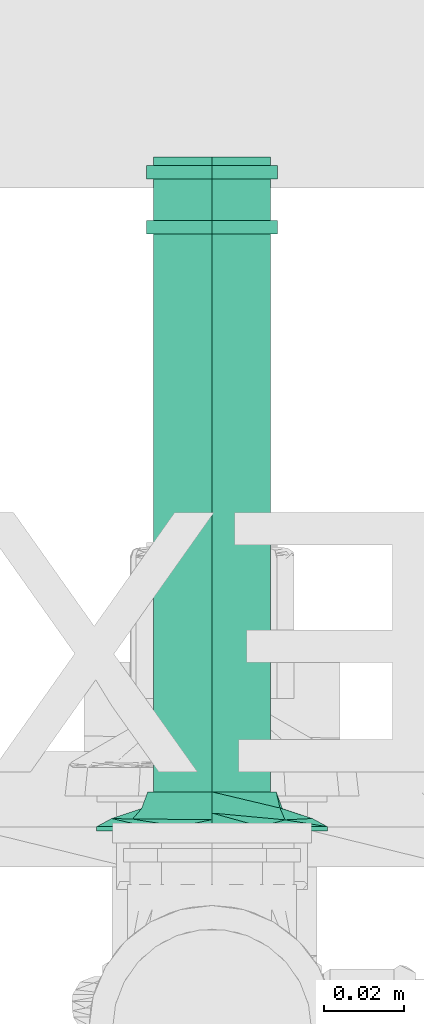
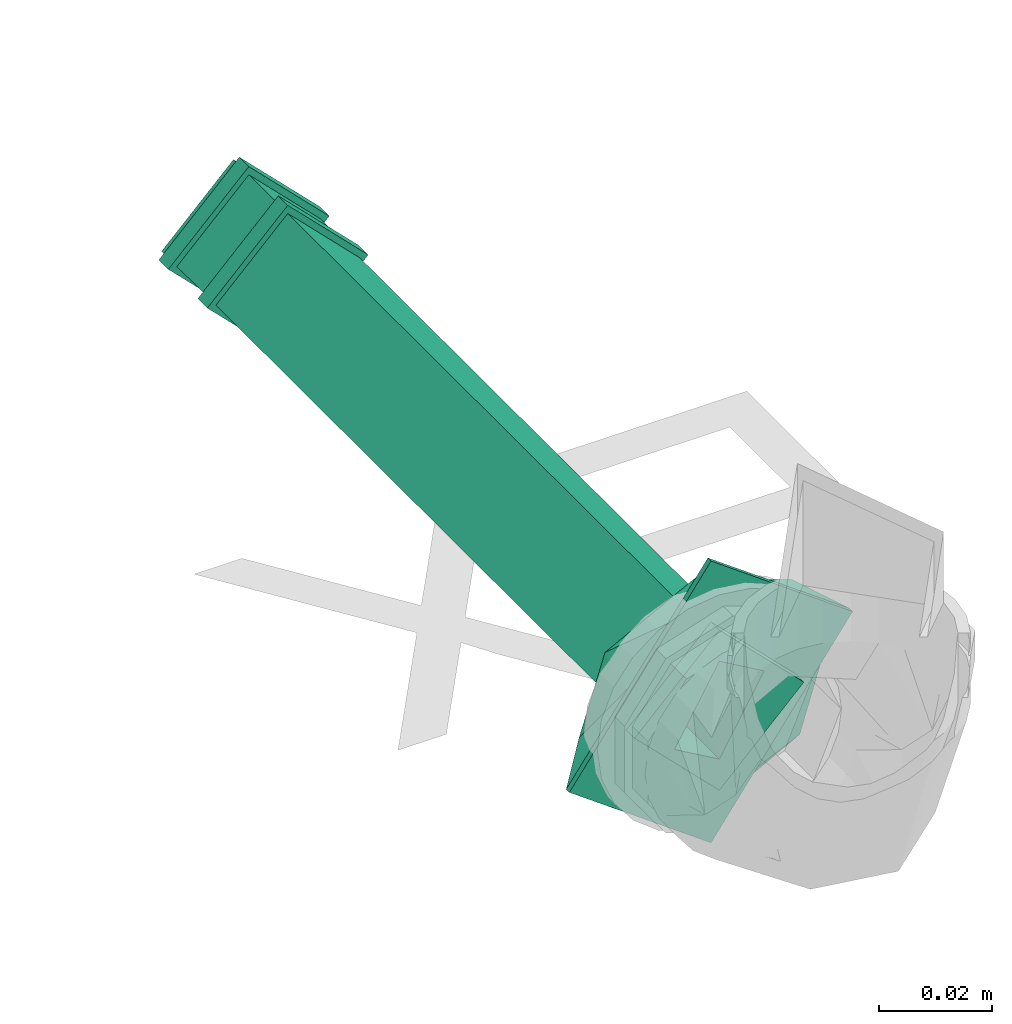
# One storey, part 245 of 589: 1 flow fitting.
"""IFC2X3 building model written with IfcOpenShell, lengths in millimetres."""

from ifc_helpers import new_model, entity, si_unit, converted_unit, derived_unit, direction, frame, origin, place, context, subcontext, project, spatial, faceted_brep, source, transform, mapped, material, type_object, type_shapes, element, save


model = new_model("IFC2X3")

# Units and contexts
model_context = context("Model", 3, precision=0.01, world=origin(), true_north=direction((6.123031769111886e-17, 1.0)))
body_context = subcontext(model_context, "Body", "Model", "MODEL_VIEW")
ifc_project = project(units=[si_unit("LENGTHUNIT", "METRE", prefix="MILLI"), si_unit("AREAUNIT", "SQUARE_METRE"), si_unit("VOLUMEUNIT", "CUBIC_METRE"), converted_unit("PLANEANGLEUNIT", "DEGREE", entity("IfcRatioMeasure", 0.017453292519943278), si_unit("PLANEANGLEUNIT", "RADIAN"), dimensions=[0, 0, 0, 0, 0, 0, 0]), si_unit("MASSUNIT", "GRAM", prefix="KILO"), derived_unit("MASSDENSITYUNIT", [(si_unit("MASSUNIT", "GRAM", prefix="KILO"), 1), (si_unit("LENGTHUNIT", "METRE"), -3)]), derived_unit("IONCONCENTRATIONUNIT", [(si_unit("MASSUNIT", "GRAM", prefix="KILO"), 1), (si_unit("LENGTHUNIT", "METRE"), -3)]), derived_unit("MOMENTOFINERTIAUNIT", [(si_unit("LENGTHUNIT", "METRE"), 4)]), si_unit("TIMEUNIT", "SECOND"), si_unit("FREQUENCYUNIT", "HERTZ"), si_unit("THERMODYNAMICTEMPERATUREUNIT", "DEGREE_CELSIUS"), derived_unit("THERMALTRANSMITTANCEUNIT", [(si_unit("MASSUNIT", "GRAM", prefix="KILO"), 1), (si_unit("THERMODYNAMICTEMPERATUREUNIT", "KELVIN"), -1), (si_unit("TIMEUNIT", "SECOND"), -3)]), derived_unit("THERMALCONDUCTANCEUNIT", [(si_unit("MASSUNIT", "GRAM", prefix="KILO"), 1), (si_unit("THERMODYNAMICTEMPERATUREUNIT", "KELVIN"), -1), (si_unit("TIMEUNIT", "SECOND"), -3), (si_unit("LENGTHUNIT", "METRE"), 1)]), derived_unit("VOLUMETRICFLOWRATEUNIT", [(si_unit("LENGTHUNIT", "METRE"), 3), (si_unit("TIMEUNIT", "SECOND"), -1)]), derived_unit("MASSFLOWRATEUNIT", [(si_unit("MASSUNIT", "GRAM", prefix="KILO"), 1), (si_unit("TIMEUNIT", "SECOND"), -1)]), derived_unit("ROTATIONALFREQUENCYUNIT", [(si_unit("TIMEUNIT", "SECOND"), -1)]), si_unit("ELECTRICCURRENTUNIT", "AMPERE"), si_unit("ELECTRICVOLTAGEUNIT", "VOLT"), si_unit("POWERUNIT", "WATT"), si_unit("FORCEUNIT", "NEWTON", prefix="KILO"), si_unit("ILLUMINANCEUNIT", "LUX"), si_unit("LUMINOUSFLUXUNIT", "LUMEN"), si_unit("LUMINOUSINTENSITYUNIT", "CANDELA"), derived_unit("USERDEFINED", [(si_unit("MASSUNIT", "GRAM", prefix="KILO"), -1), (si_unit("LENGTHUNIT", "METRE"), -2), (si_unit("TIMEUNIT", "SECOND"), 3), (si_unit("LUMINOUSFLUXUNIT", "LUMEN"), 1)]), derived_unit("USERDEFINED", [(si_unit("MASSUNIT", "GRAM", prefix="KILO"), 1), (si_unit("TIMEUNIT", "SECOND"), -3), (si_unit("LENGTHUNIT", "METRE"), 3), (si_unit("ELECTRICCURRENTUNIT", "AMPERE"), -2)]), derived_unit("SOUNDPOWERUNIT", [(si_unit("MASSUNIT", "GRAM", prefix="KILO"), 1), (si_unit("TIMEUNIT", "SECOND"), -3), (si_unit("LENGTHUNIT", "METRE"), 2)]), derived_unit("SOUNDPRESSUREUNIT", [(si_unit("MASSUNIT", "GRAM", prefix="KILO"), 1), (si_unit("LENGTHUNIT", "METRE"), -1), (si_unit("TIMEUNIT", "SECOND"), -2)]), derived_unit("LINEARVELOCITYUNIT", [(si_unit("LENGTHUNIT", "METRE"), 1), (si_unit("TIMEUNIT", "SECOND"), -1)]), si_unit("PRESSUREUNIT", "PASCAL"), derived_unit("USERDEFINED", [(si_unit("MASSUNIT", "GRAM", prefix="KILO"), 1), (si_unit("LENGTHUNIT", "METRE"), -2), (si_unit("TIMEUNIT", "SECOND"), -2)]), derived_unit("LINEARFORCEUNIT", [(si_unit("MASSUNIT", "GRAM", prefix="KILO"), 1), (si_unit("TIMEUNIT", "SECOND"), -2)]), derived_unit("PLANARFORCEUNIT", [(si_unit("MASSUNIT", "GRAM", prefix="KILO"), 1), (si_unit("LENGTHUNIT", "METRE"), -1), (si_unit("TIMEUNIT", "SECOND"), -2)]), derived_unit("SPECIFICHEATCAPACITYUNIT", [(si_unit("THERMODYNAMICTEMPERATUREUNIT", "KELVIN"), -1), (si_unit("LENGTHUNIT", "METRE"), 2), (si_unit("TIMEUNIT", "SECOND"), -2)]), derived_unit("HEATINGVALUEUNIT", [(si_unit("LENGTHUNIT", "METRE"), 2), (si_unit("TIMEUNIT", "SECOND"), -2)]), derived_unit("VAPORPERMEABILITYUNIT", [(si_unit("LENGTHUNIT", "METRE"), -1), (si_unit("TIMEUNIT", "SECOND"), 1)]), derived_unit("DYNAMICVISCOSITYUNIT", [(si_unit("MASSUNIT", "GRAM", prefix="KILO"), 1), (si_unit("TIMEUNIT", "SECOND"), -1), (si_unit("LENGTHUNIT", "METRE"), -1)]), derived_unit("THERMALEXPANSIONCOEFFICIENTUNIT", [(si_unit("THERMODYNAMICTEMPERATUREUNIT", "KELVIN"), -1)]), derived_unit("MODULUSOFELASTICITYUNIT", [(si_unit("MASSUNIT", "GRAM", prefix="KILO"), 1), (si_unit("LENGTHUNIT", "METRE"), -1), (si_unit("TIMEUNIT", "SECOND"), -2)]), derived_unit("ISOTHERMALMOISTURECAPACITYUNIT", [(si_unit("LENGTHUNIT", "METRE"), 3), (si_unit("MASSUNIT", "GRAM", prefix="KILO"), -1)]), derived_unit("MOISTUREDIFFUSIVITYUNIT", [(si_unit("TIMEUNIT", "SECOND"), -1), (si_unit("LENGTHUNIT", "METRE"), 2)])], contexts=[model_context])

# Site, building, storey
site_placement = place(None, origin())
site = spatial("IfcSite", under=ifc_project, at=site_placement, Name="Default", CompositionType="ELEMENT")
building_placement = place(site_placement, origin())
building = spatial("IfcBuilding", under=site, at=building_placement, CompositionType="ELEMENT")
storey_placement = place(building_placement, frame((0.0, 0.0, 100.0)))
storey = spatial("IfcBuildingStorey", under=building, at=storey_placement, Name="TÉRREO", CompositionType="ELEMENT", Elevation=100.0)

# Flow fitting
ifc_material = material(Name="Cromada")
pipe_fitting_type = type_object("IfcPipeFittingType", Name="Tubo de Ligação Inox com anel para vaso sanitário 25cm:Tubo de Ligação Inox com anel para vaso sanitário 25cm", PredefinedType="NOTDEFINED", material=ifc_material)
shared_shape = source(origin(), body_context, "Body", "Brep", [
    faceted_brep([(169.50429906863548, 32.118882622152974, 13.280359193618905), (169.50429906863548, 40.79117842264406, 21.95265499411), (169.50429906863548, 49.46347422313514, 30.624950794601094), (172.4480370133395, 49.46347422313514, 30.624950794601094), (172.4480370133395, 37.891441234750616, 19.052917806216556), (172.4480370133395, 32.118882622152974, 13.280359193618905), (169.50429906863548, 23.446586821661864, 21.95265499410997), (172.4480370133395, 23.446586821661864, 21.95265499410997), (172.4480370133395, 14.774291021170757, 30.624950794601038), (169.50429906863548, 14.774291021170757, 30.624950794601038), (169.50429906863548, 32.11888262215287, 47.96954239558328), (169.50429906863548, 23.44658682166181, 39.297246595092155), (172.4480370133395, 26.346323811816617, 42.196983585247), (172.4480370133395, 32.11888262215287, 47.96954239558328), (169.50429906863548, 40.791178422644, 39.29724659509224), (172.4480370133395, 40.791178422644, 39.29724659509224), (169.50429906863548, 1.5952722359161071, 30.62495079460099), (169.50429906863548, 5.781758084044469, 27.583290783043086), (169.50429906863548, 4.910115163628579, 35.18744066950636), (169.50429906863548, 11.584253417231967, 23.367531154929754), (169.50429906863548, 16.578744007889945, 19.738821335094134), (169.50429906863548, 21.57323459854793, 16.11011151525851), (169.50429906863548, 26.567725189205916, 12.481401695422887), (169.50429906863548, 31.56221577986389, 8.852691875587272), (169.50429906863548, 36.55670637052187, 5.223982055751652), (169.50429906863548, 41.55119696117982, 1.5952722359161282), (169.50429906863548, 44.18760896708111, 5.2239820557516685), (169.50429906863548, 46.82402097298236, 8.852691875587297), (169.50429906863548, 49.46043297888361, 12.481401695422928), (169.50429906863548, 52.09684498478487, 16.110111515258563), (169.50429906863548, 56.012807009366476, 21.499970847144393), (169.50429906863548, 59.32765000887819, 26.062460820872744), (169.50429906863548, 62.642493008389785, 30.624950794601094), (169.50429906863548, 58.45600728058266, 33.666610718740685), (169.50429906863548, 52.65351182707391, 37.882370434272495), (169.50429906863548, 47.65902123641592, 41.511080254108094), (169.50429906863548, 42.66453064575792, 45.139790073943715), (169.50429906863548, 37.67004005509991, 48.76849989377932), (169.50429906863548, 32.67554946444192, 52.39720971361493), (169.50429906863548, 27.681058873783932, 56.025919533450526), (169.50429906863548, 22.686568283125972, 59.654629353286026), (169.50429906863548, 20.0501562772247, 56.025919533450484), (169.50429906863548, 17.41374427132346, 52.39720971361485), (169.50429906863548, 14.777332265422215, 48.76849989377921), (169.50429906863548, 12.140920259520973, 45.139790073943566), (169.50429906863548, 8.224958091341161, 39.749930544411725), (19.27578185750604, 46.84025664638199, 30.624950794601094), (159.6299658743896, 46.84025664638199, 30.624950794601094), (159.6299658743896, 41.249188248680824, 25.03388239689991), (159.6299658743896, 32.118882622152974, 15.903576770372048), (19.27578185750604, 32.118882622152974, 15.903576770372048), (19.27578185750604, 39.479569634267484, 23.26426378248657), (2.0682862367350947, 46.8402566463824, 30.624950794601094), (2.0682862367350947, 39.47956963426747, 23.26426378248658), (2.0682862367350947, 32.11888262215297, 15.903576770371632), (0.0, 32.11888262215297, 15.903576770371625), (0.0, 39.47956963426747, 23.26426378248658), (0.0, 46.840256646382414, 30.624950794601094), (15.901727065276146, 46.84025664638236, 30.624950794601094), (15.901727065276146, 39.47956963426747, 23.26426378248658), (15.901727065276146, 32.11888262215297, 15.903576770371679), (5.4423410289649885, 32.11888262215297, 15.903576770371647), (5.4423410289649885, 39.47956963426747, 23.26426378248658), (5.4423410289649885, 46.840256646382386, 30.624950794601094), (19.27578185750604, 24.758195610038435, 23.264263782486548), (159.6299658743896, 24.758195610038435, 23.264263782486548), (159.6299658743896, 17.3975085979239, 30.624950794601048), (19.27578185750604, 17.3975085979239, 30.624950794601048), (2.0682862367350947, 22.728055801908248, 25.29440359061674), (2.0682862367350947, 17.39750859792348, 30.624950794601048), (0.0, 17.39750859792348, 30.624950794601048), (0.0, 24.75819561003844, 23.26426378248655), (15.901727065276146, 22.728055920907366, 25.294403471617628), (15.901727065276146, 17.397508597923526, 30.624950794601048), (5.4423410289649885, 17.3975085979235, 30.624950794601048), (5.4423410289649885, 24.75819561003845, 23.26426378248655), (19.275781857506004, 24.758195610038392, 37.985637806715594), (159.6299658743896, 22.98857663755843, 36.21601883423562), (159.6299658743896, 32.118882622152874, 45.34632481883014), (19.27578185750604, 32.118882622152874, 45.34632481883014), (2.0682862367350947, 24.758195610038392, 37.98563780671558), (2.0682862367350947, 32.118882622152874, 45.34632481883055), (0.0, 32.118882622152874, 45.34632481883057), (0.0, 24.7581956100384, 37.98563780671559), (15.901727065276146, 24.7581956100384, 37.98563780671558), (15.901727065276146, 32.118882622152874, 45.3463248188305), (5.4423410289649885, 32.118882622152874, 45.34632481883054), (5.4423410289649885, 24.758195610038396, 37.98563780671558), (19.27578185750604, 39.47956963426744, 37.98563780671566), (159.6299658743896, 39.47956963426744, 37.98563780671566), (2.0682862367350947, 41.50970944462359, 35.95549799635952), (0.0, 39.47956963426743, 37.98563780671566), (15.901727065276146, 41.509709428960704, 35.955498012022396), (5.4423410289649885, 39.47956963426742, 37.98563780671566), (0.0, 21.519458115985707, 30.624950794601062), (0.0, 37.41859487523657, 21.44557990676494), (0.0, 26.819170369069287, 39.80432168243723), (0.0, 42.718307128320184, 30.624950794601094), (172.4480370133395, 37.418594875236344, 21.44557990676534), (172.4480370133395, 42.71830712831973, 30.624950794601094), (172.4480370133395, 21.51945811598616, 30.624950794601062), (172.4480370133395, 26.819170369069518, 39.80432168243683), (5.4423410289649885, 15.622913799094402, 30.624950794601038), (5.4423410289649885, 26.90830271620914, 19.33956187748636), (5.4423410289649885, 32.118882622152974, 14.12898197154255), (5.4423410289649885, 23.870898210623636, 38.872935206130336), (5.4423410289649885, 32.11888262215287, 47.12091961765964), (5.4423410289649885, 40.366867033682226, 22.376966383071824), (5.4423410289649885, 48.614851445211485, 30.624950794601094), (5.4423410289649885, 37.3294625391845, 41.910339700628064), (2.0682862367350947, 32.118882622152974, 14.128981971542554), (2.0682862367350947, 40.366867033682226, 22.376966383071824), (2.0682862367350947, 48.614851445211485, 30.624950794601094), (19.27578185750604, 48.614851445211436, 30.624950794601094), (19.27578185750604, 40.3668670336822, 22.376966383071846), (19.27578185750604, 32.118882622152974, 14.128981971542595), (15.901727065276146, 32.11888262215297, 14.1289819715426), (15.901727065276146, 40.3668670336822, 22.376966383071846), (15.901727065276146, 48.614851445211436, 30.624950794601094), (2.0682862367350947, 15.622913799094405, 30.624950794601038), (2.0682862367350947, 23.87089821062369, 22.376966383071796), (19.27578185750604, 26.908302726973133, 19.339561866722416), (19.27578185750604, 15.622913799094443, 30.62495079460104), (15.901727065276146, 15.622913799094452, 30.624950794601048), (15.901727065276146, 23.87089821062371, 22.37696638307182), (2.0682862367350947, 32.11888262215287, 47.12091961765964), (2.0682862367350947, 23.87089821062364, 38.872935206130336), (19.275781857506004, 23.870898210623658, 38.87293520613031), (19.27578185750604, 32.11888262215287, 47.12091961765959), (15.901727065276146, 32.11888262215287, 47.12091961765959), (15.901727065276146, 23.870898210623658, 38.87293520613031), (2.0682862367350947, 40.36686703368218, 38.872935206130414), (19.27578185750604, 37.329462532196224, 41.91033970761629), (15.901727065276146, 40.366867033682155, 38.87293520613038), (168.38578825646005, 41.55119696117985, 1.595272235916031), (168.38578825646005, 44.18760896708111, 5.22398205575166), (168.38578825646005, 46.82402097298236, 8.852691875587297), (168.38578825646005, 49.46043297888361, 12.481401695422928), (168.38578825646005, 52.09684498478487, 16.110111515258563), (168.38578825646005, 53.711986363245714, 18.333162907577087), (168.38578825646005, 54.73325699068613, 19.738821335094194), (168.38578825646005, 57.36966899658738, 23.367531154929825), (168.38578825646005, 59.32765000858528, 26.062460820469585), (168.38578825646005, 62.64249300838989, 30.624950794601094), (168.38578825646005, 1.5952722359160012, 30.62495079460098), (168.38578825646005, 5.781758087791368, 27.583290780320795), (168.38578825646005, 9.968243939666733, 24.5416307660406), (168.38578825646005, 12.874069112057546, 22.430425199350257), (168.38578825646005, 14.15472979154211, 21.499970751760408), (168.38578825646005, 18.34121564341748, 18.458310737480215), (168.38578825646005, 24.143710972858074, 14.24255111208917), (168.38578825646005, 29.946206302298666, 10.02679148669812), (168.38578825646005, 35.74870163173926, 5.81103186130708), (168.38578825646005, 22.686568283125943, 59.654629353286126), (168.38578825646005, 20.050156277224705, 56.02591953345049), (168.38578825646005, 17.413744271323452, 52.397209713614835), (168.38578825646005, 14.777332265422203, 48.76849989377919), (168.38578825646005, 12.140920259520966, 45.13979007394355), (168.38578825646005, 10.525778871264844, 42.91673866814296), (168.38578825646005, 9.504508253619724, 41.51108025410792), (168.38578825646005, 6.86809624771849, 37.88237043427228), (168.38578825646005, 4.910115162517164, 35.18744066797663), (168.38578825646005, 58.45600728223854, 33.66661071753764), (168.38578825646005, 54.2695215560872, 36.708270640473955), (168.38578825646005, 51.36369660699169, 38.819476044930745), (168.38578825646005, 50.08303582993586, 39.749930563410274), (168.38578825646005, 45.89655010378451, 42.79159048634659), (168.38578825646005, 40.09405464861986, 47.00735020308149), (168.38578825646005, 34.29155919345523, 51.22310991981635), (168.38578825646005, 28.489063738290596, 55.43886963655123), (166.65864206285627, 50.44475613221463, 12.263416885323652), (159.6299658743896, 15.96921284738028, 30.62495079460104), (163.8332882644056, 20.75825967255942, 12.912536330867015), (164.9550277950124, 9.359195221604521, 30.62495079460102), (166.32560403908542, 33.03016188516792, 5.39284694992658), (159.6299658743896, 48.26855239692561, 30.624950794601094), (164.9550277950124, 54.878570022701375, 30.624950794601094), (163.6875401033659, 44.02352865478, 13.52475711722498), (159.6299658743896, 32.118882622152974, 14.475281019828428), (166.58567026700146, 58.56876719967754, 30.62495079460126), (166.45278398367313, 16.238491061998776, 10.662693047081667), (166.58567029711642, 5.668997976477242, 30.62495079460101), (166.65864196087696, 13.793009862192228, 48.98648514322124), (166.32560414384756, 31.20760459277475, 55.857054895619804), (163.83328832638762, 43.47950586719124, 48.33736517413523), (163.68754020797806, 20.214236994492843, 47.725144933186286), (159.6299658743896, 32.11888262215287, 46.77462056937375), (166.45278399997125, 47.99927477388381, 50.5872081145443)], [[[0, 1, 2, 3, 4, 5]], [[6, 0, 5, 7, 8, 9]], [[10, 11, 9, 8, 12, 13]], [[14, 10, 13, 15, 3, 2]], [[16, 0, 6]], [[0, 16, 17]], [[16, 6, 9]], [[9, 18, 16]], [[0, 17, 19]], [[0, 19, 20]], [[0, 20, 21]], [[0, 21, 22]], [[0, 22, 23]], [[0, 23, 24]], [[0, 24, 25]], [[25, 1, 0]], [[25, 2, 1]], [[2, 25, 26]], [[2, 26, 27]], [[2, 27, 28]], [[2, 28, 29]], [[2, 29, 30]], [[2, 30, 31]], [[2, 31, 32]], [[32, 14, 2]], [[32, 10, 14]], [[10, 32, 33]], [[10, 33, 34]], [[10, 34, 35]], [[10, 35, 36]], [[10, 36, 37]], [[10, 37, 38]], [[10, 38, 39]], [[10, 39, 40]], [[9, 40, 41]], [[40, 9, 11]], [[40, 11, 10]], [[9, 41, 42]], [[9, 42, 43]], [[9, 43, 44]], [[9, 44, 45]], [[9, 45, 18]], [[46, 47, 48, 49, 50, 51]], [[52, 53, 54, 55, 56, 57]], [[58, 59, 60, 61, 62, 63]], [[64, 50, 49, 65, 66, 67]], [[54, 68, 69, 70, 71, 55]], [[60, 72, 73, 74, 75, 61]], [[76, 67, 66, 77, 78, 79]], [[69, 80, 81, 82, 83, 70]], [[73, 84, 85, 86, 87, 74]], [[88, 79, 78, 89, 47, 46]], [[81, 90, 52, 57, 91, 82]], [[85, 92, 58, 63, 93, 86]], [[94, 55, 71]], [[55, 94, 95]], [[94, 71, 70]], [[70, 96, 94]], [[95, 56, 55]], [[95, 57, 56]], [[95, 97, 57]], [[82, 97, 96]], [[97, 82, 91]], [[97, 91, 57]], [[96, 70, 83]], [[96, 83, 82]], [[98, 99, 97, 95]], [[94, 100, 98, 95]], [[101, 100, 94, 96]], [[97, 99, 101, 96]], [[100, 8, 7]], [[100, 101, 8]], [[100, 7, 5]], [[98, 100, 5]], [[101, 12, 8]], [[101, 13, 12]], [[101, 99, 13]], [[3, 99, 98]], [[99, 3, 15]], [[99, 15, 13]], [[98, 5, 4]], [[98, 4, 3]], [[74, 102, 103]], [[74, 103, 104]], [[104, 75, 74]], [[74, 105, 102]], [[74, 106, 105]], [[106, 74, 87]], [[106, 87, 86]], [[106, 86, 93]], [[106, 93, 63]], [[63, 104, 107]], [[104, 63, 62]], [[63, 107, 108]], [[63, 108, 109]], [[63, 109, 106]], [[104, 62, 61]], [[104, 61, 75]], [[108, 107, 104, 110, 111, 112]], [[113, 114, 115, 116, 117, 118]], [[110, 104, 103, 102, 119, 120]], [[116, 115, 121, 122, 123, 124]], [[102, 105, 106, 125, 126, 119]], [[122, 127, 128, 129, 130, 123]], [[125, 106, 109, 108, 112, 131]], [[129, 128, 132, 113, 118, 133]], [[69, 110, 120]], [[110, 69, 68]], [[69, 120, 119]], [[69, 119, 126]], [[69, 126, 125]], [[125, 80, 69]], [[110, 68, 54]], [[110, 54, 53]], [[110, 53, 52]], [[52, 125, 131]], [[125, 52, 90]], [[52, 111, 110]], [[52, 112, 111]], [[52, 131, 112]], [[125, 90, 81]], [[125, 81, 80]], [[27, 26, 25, 134, 135, 136, 137, 138, 139, 140, 141, 142, 143, 32, 31, 30, 29, 28]], [[19, 17, 16, 144, 145, 146, 147, 148, 149, 150, 151, 152, 134, 25, 24, 23, 22, 21, 20]], [[42, 41, 40, 153, 154, 155, 156, 157, 158, 159, 160, 161, 144, 16, 18, 45, 44, 43]], [[32, 143, 162, 163, 164, 165, 166, 167, 168, 169, 153, 40, 39, 38, 37, 36, 35, 34, 33]], [[170, 139, 138, 137, 136, 135, 134]], [[171, 172, 173]], [[174, 170, 134]], [[175, 176, 177]], [[177, 178, 175]], [[142, 141, 140, 139, 176, 179, 143]], [[174, 172, 177]], [[178, 177, 172]], [[174, 180, 172]], [[178, 172, 171]], [[174, 134, 152, 151, 150]], [[174, 150, 180]], [[170, 177, 176]], [[181, 180, 147]], [[177, 170, 174]], [[139, 170, 176]], [[181, 173, 180]], [[173, 172, 180]], [[180, 150, 149, 148, 147]], [[181, 147, 146, 145, 144]], [[182, 158, 157, 156, 155, 154, 153]], [[183, 184, 185]], [[183, 182, 153]], [[171, 173, 185]], [[185, 186, 171]], [[175, 184, 176]], [[183, 187, 184]], [[186, 185, 184]], [[179, 187, 164]], [[186, 184, 175]], [[183, 153, 169, 168, 167]], [[183, 167, 187]], [[182, 185, 173]], [[161, 160, 159, 158, 173, 181, 144]], [[185, 182, 183]], [[158, 182, 173]], [[179, 176, 187]], [[176, 184, 187]], [[187, 167, 166, 165, 164]], [[179, 164, 163, 162, 143]], [[178, 171, 66]], [[178, 66, 65]], [[178, 65, 49]], [[178, 49, 48]], [[178, 48, 47]], [[178, 47, 175]], [[186, 66, 171]], [[186, 175, 47]], [[186, 47, 89]], [[186, 77, 66]], [[186, 78, 77]], [[186, 89, 78]], [[67, 122, 121]], [[67, 121, 115]], [[115, 64, 67]], [[67, 127, 122]], [[67, 128, 127]], [[128, 67, 76]], [[128, 76, 79]], [[128, 79, 88]], [[128, 88, 46]], [[46, 115, 114]], [[115, 46, 51]], [[46, 114, 113]], [[46, 113, 132]], [[46, 132, 128]], [[115, 51, 50]], [[115, 50, 64]], [[73, 116, 124]], [[116, 73, 72]], [[73, 124, 123]], [[73, 123, 130]], [[73, 130, 129]], [[129, 84, 73]], [[116, 72, 60]], [[116, 60, 59]], [[116, 59, 58]], [[58, 129, 133]], [[129, 58, 92]], [[58, 117, 116]], [[58, 118, 117]], [[58, 133, 118]], [[129, 92, 85]], [[129, 85, 84]]]),
])
type_shapes(pipe_fitting_type, [shared_shape])
flow_fitting_placement = place(storey_placement, frame((-57.1604028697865, 3338.365419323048, 867.8811173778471), z_axis=(-1.0, 0.0, 0.0), x_axis=(0.0, -1.0, 0.0)))
element("IfcFlowFitting", 1, at=flow_fitting_placement, inside=storey, type_object=pipe_fitting_type, material=ifc_material, Name="Tubo de Ligação Inox com anel para vaso sanitário 25cm:Tubo de Ligação Inox com anel para vaso sanitário 25cm", ObjectType="Tubo de Ligação Inox com anel para vaso sanitário 25cm:Tubo de Ligação Inox com anel para vaso sanitário 25cm", context=body_context, shape_type="MappedRepresentation", body=[
    mapped(shared_shape, transform((0.0, 0.0, 0.0), scale=1.0)),
])

save(model, "model.ifc")
